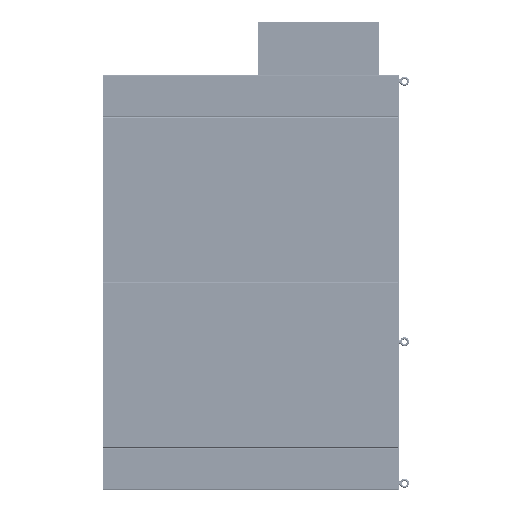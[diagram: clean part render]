
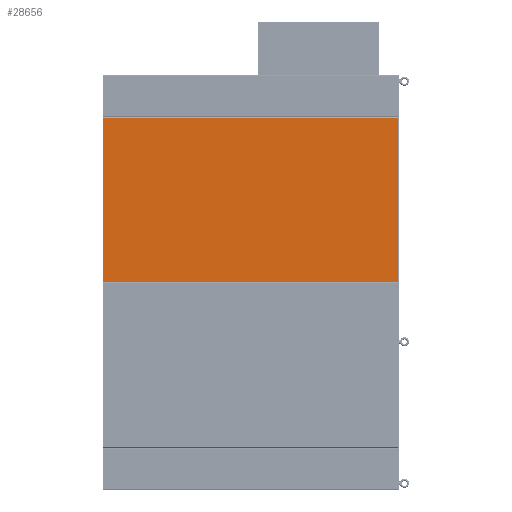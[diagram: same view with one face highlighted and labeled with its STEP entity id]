
A CAD part, left-side view. The second image highlights one B-rep face of the part: STEP entity #28656.
In plain terms, the highlighted planar face has unit normal (-1, 0, 0) as drawn and (0, 0, -1) by its records, which use the part's own axes.
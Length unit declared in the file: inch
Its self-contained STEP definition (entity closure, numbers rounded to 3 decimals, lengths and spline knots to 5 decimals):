
#28192=DIRECTION('',(0.,-1.,0.));
#28193=VECTOR('',#28192,83.75);
#28194=CARTESIAN_POINT('',(-23.25,0.,-0.125));
#28195=LINE('',#28194,#28193);
#28207=DIRECTION('',(1.,0.,0.));
#28208=VECTOR('',#28207,46.5);
#28209=CARTESIAN_POINT('',(-23.25,-83.75,-0.125));
#28210=LINE('',#28209,#28208);
#28214=DIRECTION('',(-1.,0.,0.));
#28215=VECTOR('',#28214,46.5);
#28216=CARTESIAN_POINT('',(23.25,0.,-0.125));
#28217=LINE('',#28216,#28215);
#28250=DIRECTION('',(0.,1.,0.));
#28251=VECTOR('',#28250,83.75);
#28252=CARTESIAN_POINT('',(23.25,-83.75,-0.125));
#28253=LINE('',#28252,#28251);
#28457=CARTESIAN_POINT('',(23.25,0.,-0.125));
#28458=VERTEX_POINT('',#28457);
#28459=CARTESIAN_POINT('',(23.25,-83.75,-0.125));
#28460=VERTEX_POINT('',#28459);
#28473=CARTESIAN_POINT('',(-23.25,-83.75,-0.125));
#28474=VERTEX_POINT('',#28473);
#28475=CARTESIAN_POINT('',(-23.25,0.,-0.125));
#28476=VERTEX_POINT('',#28475);
#28642=CARTESIAN_POINT('',(0.,0.,-0.125));
#28643=DIRECTION('',(0.,0.,1.));
#28644=DIRECTION('',(1.,0.,0.));
#28645=AXIS2_PLACEMENT_3D('',#28642,#28643,#28644);
#28646=PLANE('',#28645);
#28647=ORIENTED_EDGE('',*,*,#28635,.T.);
#28649=ORIENTED_EDGE('',*,*,#28648,.T.);
#28651=ORIENTED_EDGE('',*,*,#28650,.T.);
#28653=ORIENTED_EDGE('',*,*,#28652,.T.);
#28654=EDGE_LOOP('',(#28647,#28649,#28651,#28653));
#28655=FACE_OUTER_BOUND('',#28654,.F.);
#28635=EDGE_CURVE('',#28476,#28474,#28195,.T.);
#28648=EDGE_CURVE('',#28474,#28460,#28210,.T.);
#28650=EDGE_CURVE('',#28460,#28458,#28253,.T.);
#28652=EDGE_CURVE('',#28458,#28476,#28217,.T.);
#28656=ADVANCED_FACE('',(#28655),#28646,.F.);
